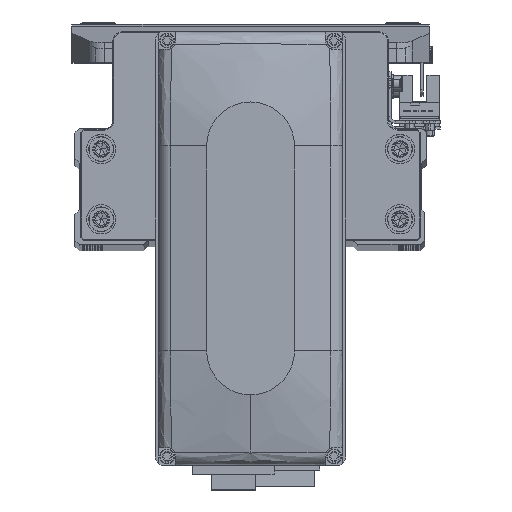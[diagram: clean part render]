
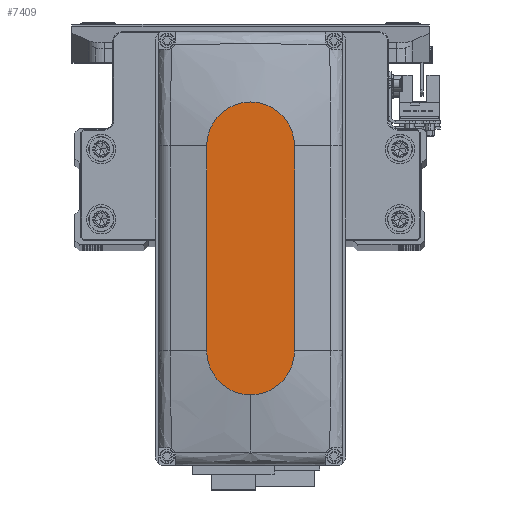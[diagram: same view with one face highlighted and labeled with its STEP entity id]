
A CAD part, top view. The second image highlights one B-rep face of the part: STEP entity #7409.
In plain terms, the highlighted planar face has unit normal (0, 0, 1).
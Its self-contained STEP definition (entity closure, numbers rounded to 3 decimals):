
#2114 = LINE ( 'NONE', #17389, #46297 ) ;
#3487 = DIRECTION ( 'NONE',  ( -1., 0., 0. ) ) ;
#5524 = EDGE_CURVE ( 'NONE', #17637, #44703, #2114, .T. ) ;
#5688 = ORIENTED_EDGE ( 'NONE', *, *, #5524, .T. ) ;
#7409 = ADVANCED_FACE ( 'NONE', ( #15961 ), #31225, .T. ) ;
#8053 = CARTESIAN_POINT ( 'NONE',  ( -35., -15., 35. ) ) ;
#8736 = DIRECTION ( 'NONE',  ( 1., 0., 0. ) ) ;
#9030 = CIRCLE ( 'NONE', #37026, 15. ) ;
#11604 = CARTESIAN_POINT ( 'NONE',  ( 35., 0., 35. ) ) ;
#12195 = DIRECTION ( 'NONE',  ( 0., 0., 1. ) ) ;
#12866 = AXIS2_PLACEMENT_3D ( 'NONE', #46507, #12195, #27472 ) ;
#13153 = EDGE_LOOP ( 'NONE', ( #32245, #46613, #5688, #36838, #38186 ) ) ;
#15087 = CIRCLE ( 'NONE', #43075, 15. ) ;
#15236 = CARTESIAN_POINT ( 'NONE',  ( 35., 0., 35. ) ) ;
#15961 = FACE_OUTER_BOUND ( 'NONE', #13153, .T. ) ;
#16439 = VERTEX_POINT ( 'NONE', #39564 ) ;
#17389 = CARTESIAN_POINT ( 'NONE',  ( -35., -15., 35. ) ) ;
#17535 = VERTEX_POINT ( 'NONE', #18151 ) ;
#17637 = VERTEX_POINT ( 'NONE', #8053 ) ;
#18151 = CARTESIAN_POINT ( 'NONE',  ( 35., 15., 35. ) ) ;
#19239 = AXIS2_PLACEMENT_3D ( 'NONE', #11604, #26880, #42157 ) ;
#20034 = EDGE_CURVE ( 'NONE', #35138, #17535, #40815, .T. ) ;
#22218 = EDGE_CURVE ( 'NONE', #44703, #35138, #9030, .T. ) ;
#22525 = LINE ( 'NONE', #37807, #37556 ) ;
#26880 = DIRECTION ( 'NONE',  ( 0., 0., 1. ) ) ;
#27472 = DIRECTION ( 'NONE',  ( 1., 0., 0. ) ) ;
#27763 = CARTESIAN_POINT ( 'NONE',  ( -35., 0., 35. ) ) ;
#28226 = EDGE_CURVE ( 'NONE', #17535, #16439, #22525, .T. ) ;
#29650 = CARTESIAN_POINT ( 'NONE',  ( 50., 0., 35. ) ) ;
#30514 = DIRECTION ( 'NONE',  ( 0., 0., 1. ) ) ;
#31225 = PLANE ( 'NONE',  #12866 ) ;
#32245 = ORIENTED_EDGE ( 'NONE', *, *, #28226, .T. ) ;
#32671 = DIRECTION ( 'NONE',  ( 1., 0., 0. ) ) ;
#34081 = CARTESIAN_POINT ( 'NONE',  ( 35., -15., 35. ) ) ;
#35138 = VERTEX_POINT ( 'NONE', #29650 ) ;
#36838 = ORIENTED_EDGE ( 'NONE', *, *, #22218, .T. ) ;
#37026 = AXIS2_PLACEMENT_3D ( 'NONE', #15236, #30514, #45784 ) ;
#37556 = VECTOR ( 'NONE', #3487, 1000. ) ;
#37807 = CARTESIAN_POINT ( 'NONE',  ( -35., 15., 35. ) ) ;
#38186 = ORIENTED_EDGE ( 'NONE', *, *, #20034, .T. ) ;
#39564 = CARTESIAN_POINT ( 'NONE',  ( -35., 15., 35. ) ) ;
#40815 = CIRCLE ( 'NONE', #19239, 15. ) ;
#42157 = DIRECTION ( 'NONE',  ( 1., 0., 0. ) ) ;
#42493 = EDGE_CURVE ( 'NONE', #16439, #17637, #15087, .T. ) ;
#43038 = DIRECTION ( 'NONE',  ( 0., 0., 1. ) ) ;
#43075 = AXIS2_PLACEMENT_3D ( 'NONE', #27763, #43038, #8736 ) ;
#44703 = VERTEX_POINT ( 'NONE', #34081 ) ;
#45784 = DIRECTION ( 'NONE',  ( 1., 0., 0. ) ) ;
#46297 = VECTOR ( 'NONE', #32671, 1000. ) ;
#46507 = CARTESIAN_POINT ( 'NONE',  ( 0., 0., 35. ) ) ;
#46613 = ORIENTED_EDGE ( 'NONE', *, *, #42493, .T. ) ;
